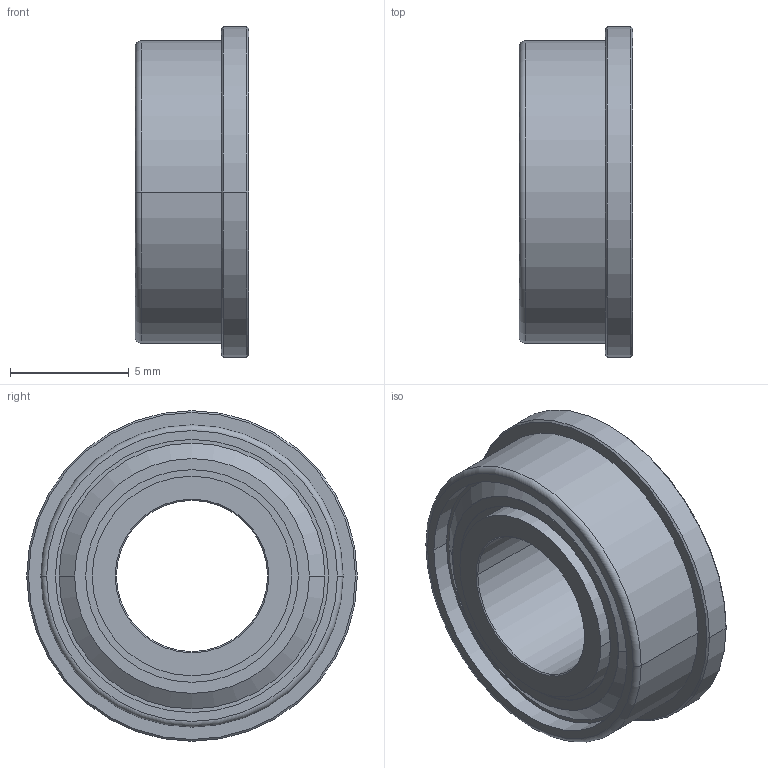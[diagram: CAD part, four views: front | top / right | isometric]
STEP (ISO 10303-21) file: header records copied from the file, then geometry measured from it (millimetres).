
FILE_DESCRIPTION((''),'2;1');
FILE_NAME('45394','2011-01-23T',('carefree'),(''),'PRO/ENGINEER BY PARAMETRIC TECHNOLOGY CORPORATION, 2005030','PRO/ENGINEER BY PARAMETRIC TECHNOLOGY CORPORATION, 2005030','');
FILE_SCHEMA(('CONFIG_CONTROL_DESIGN'));
Length unit declared in the file: inch
Products named in the file (1): 45394
Bounding box: 4.76 x 13.89 x 13.89 mm (x, y, z)
Volume: 367.4 mm3; surface area: 850.3 mm2
Topology: 1 solids, 1 shells, 55 faces, 110 edges, 70 vertices
Faces by surface type: cylinder 22, cone 16, plane 15, torus 2
Entity records: 1500 total; most frequent: DIRECTION 292, CARTESIAN_POINT 235, ORIENTED_EDGE 220, AXIS2_PLACEMENT_3D 127, EDGE_CURVE 110, CIRCLE 72, VERTEX_POINT 70, EDGE_LOOP 70
